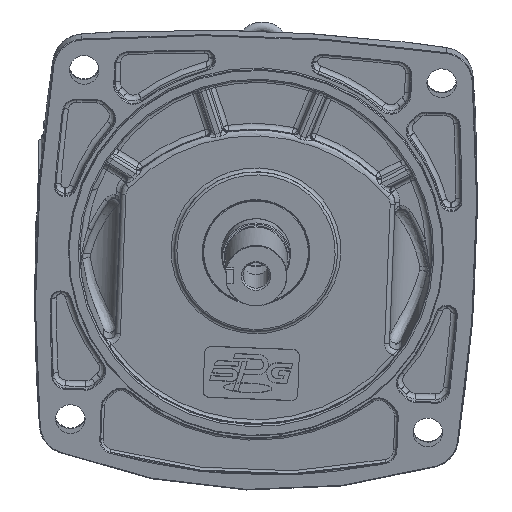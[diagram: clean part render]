
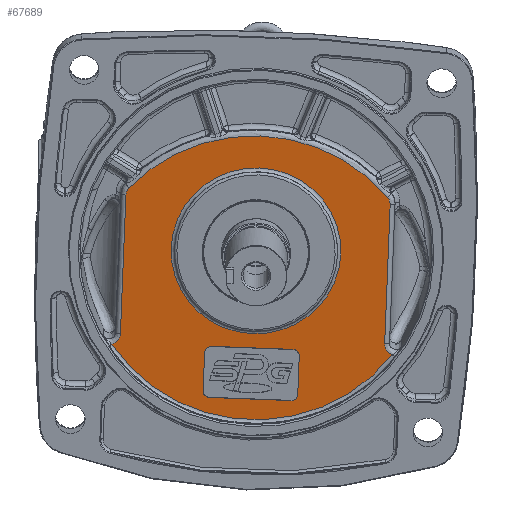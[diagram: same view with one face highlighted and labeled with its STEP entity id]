
A CAD part, top view. The second image highlights one B-rep face of the part: STEP entity #67689.
In plain terms, the highlighted planar face has unit normal (0, -0.216, 0.977).
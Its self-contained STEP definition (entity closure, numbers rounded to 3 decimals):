
#1079=FACE_BOUND('',#15610,.T.);
#1080=FACE_BOUND('',#15611,.T.);
#1730=PLANE('',#72993);
#3714=LINE('',#107303,#7022);
#3718=LINE('',#107315,#7026);
#3722=LINE('',#107327,#7030);
#3819=LINE('',#107603,#7127);
#4062=LINE('',#114378,#7370);
#4063=LINE('',#114393,#7371);
#7022=VECTOR('',#82674,10.);
#7026=VECTOR('',#82686,10.);
#7030=VECTOR('',#82698,10.);
#7127=VECTOR('',#82945,10.);
#7370=VECTOR('',#84276,10.);
#7371=VECTOR('',#84279,10.);
#11381=FACE_OUTER_BOUND('',#15609,.T.);
#15609=EDGE_LOOP('',(#48333,#48334,#48335,#48336,#48337,#48338,#48339,#48340));
#15610=EDGE_LOOP('',(#48341,#48342,#48343,#48344,#48345,#48346,#48347,#48348));
#15611=EDGE_LOOP('',(#48349));
#19464=CIRCLE('',#72365,4.);
#19466=CIRCLE('',#72369,4.);
#19468=CIRCLE('',#72373,4.);
#19470=CIRCLE('',#72377,4.);
#19797=CIRCLE('',#72989,105.999);
#19801=CIRCLE('',#72994,106.076);
#19802=CIRCLE('',#72995,52.);
#23081=B_SPLINE_CURVE_WITH_KNOTS('',3,(#114353,#114354,#114355,#114356,
#114357,#114358),.UNSPECIFIED.,.F.,.F.,(4,1,1,4),(0.901,1.027,
1.54,1.797),.UNSPECIFIED.);
#23083=B_SPLINE_CURVE_WITH_KNOTS('',3,(#114370,#114371,#114372,#114373,
#114374,#114375,#114376),.UNSPECIFIED.,.F.,.F.,(4,1,1,1,4),(0.,
0.257,0.513,0.77,0.896),
 .UNSPECIFIED.);
#23084=B_SPLINE_CURVE_WITH_KNOTS('',3,(#114380,#114381,#114382,#114383,
#114384),.UNSPECIFIED.,.F.,.F.,(4,1,4),(0.,0.217,0.507),
 .UNSPECIFIED.);
#23085=B_SPLINE_CURVE_WITH_KNOTS('',3,(#114388,#114389,#114390,#114391,
#114392),.UNSPECIFIED.,.F.,.F.,(4,1,4),(0.,0.29,0.507),
 .UNSPECIFIED.);
#26964=VERTEX_POINT('',#107293);
#26965=VERTEX_POINT('',#107295);
#26967=VERTEX_POINT('',#107301);
#26969=VERTEX_POINT('',#107307);
#26971=VERTEX_POINT('',#107313);
#26973=VERTEX_POINT('',#107319);
#26975=VERTEX_POINT('',#107325);
#26977=VERTEX_POINT('',#107331);
#27503=VERTEX_POINT('',#114147);
#27504=VERTEX_POINT('',#114149);
#27508=VERTEX_POINT('',#114352);
#27510=VERTEX_POINT('',#114369);
#27511=VERTEX_POINT('',#114377);
#27512=VERTEX_POINT('',#114379);
#27513=VERTEX_POINT('',#114385);
#27514=VERTEX_POINT('',#114387);
#27515=VERTEX_POINT('',#114394);
#33995=EDGE_CURVE('',#26964,#26965,#19464,.T.);
#33999=EDGE_CURVE('',#26964,#26967,#3714,.T.);
#34002=EDGE_CURVE('',#26969,#26967,#19466,.T.);
#34005=EDGE_CURVE('',#26969,#26971,#3718,.T.);
#34008=EDGE_CURVE('',#26973,#26971,#19468,.T.);
#34011=EDGE_CURVE('',#26973,#26975,#3722,.T.);
#34014=EDGE_CURVE('',#26977,#26975,#19470,.T.);
#34150=EDGE_CURVE('',#26977,#26965,#3819,.T.);
#34924=EDGE_CURVE('',#27503,#27504,#19797,.T.);
#34931=EDGE_CURVE('',#27504,#27508,#23081,.T.);
#34934=EDGE_CURVE('',#27510,#27503,#23083,.T.);
#34935=EDGE_CURVE('',#27511,#27510,#4062,.T.);
#34936=EDGE_CURVE('',#27512,#27511,#23084,.T.);
#34937=EDGE_CURVE('',#27513,#27512,#19801,.T.);
#34938=EDGE_CURVE('',#27514,#27513,#23085,.T.);
#34939=EDGE_CURVE('',#27508,#27514,#4063,.T.);
#34940=EDGE_CURVE('',#27515,#27515,#19802,.T.);
#48333=ORIENTED_EDGE('',*,*,#34924,.F.);
#48334=ORIENTED_EDGE('',*,*,#34934,.F.);
#48335=ORIENTED_EDGE('',*,*,#34935,.F.);
#48336=ORIENTED_EDGE('',*,*,#34936,.F.);
#48337=ORIENTED_EDGE('',*,*,#34937,.F.);
#48338=ORIENTED_EDGE('',*,*,#34938,.F.);
#48339=ORIENTED_EDGE('',*,*,#34939,.F.);
#48340=ORIENTED_EDGE('',*,*,#34931,.F.);
#48341=ORIENTED_EDGE('',*,*,#34011,.T.);
#48342=ORIENTED_EDGE('',*,*,#34014,.F.);
#48343=ORIENTED_EDGE('',*,*,#34150,.T.);
#48344=ORIENTED_EDGE('',*,*,#33995,.F.);
#48345=ORIENTED_EDGE('',*,*,#33999,.T.);
#48346=ORIENTED_EDGE('',*,*,#34002,.F.);
#48347=ORIENTED_EDGE('',*,*,#34005,.T.);
#48348=ORIENTED_EDGE('',*,*,#34008,.F.);
#48349=ORIENTED_EDGE('',*,*,#34940,.F.);
#67689=ADVANCED_FACE('',(#11381,#1079,#1080),#1730,.F.);
#72365=AXIS2_PLACEMENT_3D('',#107296,#82667,#82668);
#72369=AXIS2_PLACEMENT_3D('',#107309,#82680,#82681);
#72373=AXIS2_PLACEMENT_3D('',#107321,#82692,#82693);
#72377=AXIS2_PLACEMENT_3D('',#107333,#82704,#82705);
#72989=AXIS2_PLACEMENT_3D('',#114150,#84266,#84267);
#72993=AXIS2_PLACEMENT_3D('',#114368,#84274,#84275);
#72994=AXIS2_PLACEMENT_3D('',#114386,#84277,#84278);
#72995=AXIS2_PLACEMENT_3D('',#114395,#84280,#84281);
#82667=DIRECTION('center_axis',(0.,-0.216,
0.976));
#82668=DIRECTION('ref_axis',(0.734,0.663,0.147));
#82674=DIRECTION('',(-0.038,-0.976,-0.215));
#82680=DIRECTION('center_axis',(0.,-0.216,
0.976));
#82681=DIRECTION('ref_axis',(0.679,-0.716,-0.158));
#82686=DIRECTION('',(-0.999,0.037,0.008));
#82692=DIRECTION('center_axis',(0.,-0.216,
0.976));
#82693=DIRECTION('ref_axis',(-0.734,-0.663,-0.147));
#82698=DIRECTION('',(0.038,0.976,0.215));
#82704=DIRECTION('center_axis',(0.,-0.216,
0.976));
#82705=DIRECTION('ref_axis',(-0.679,0.716,0.158));
#82945=DIRECTION('',(0.999,-0.037,-0.008));
#84266=DIRECTION('center_axis',(0.,0.216,
-0.976));
#84267=DIRECTION('ref_axis',(-0.038,-0.976,-0.215));
#84274=DIRECTION('center_axis',(0.,0.216,
-0.976));
#84275=DIRECTION('ref_axis',(-0.999,0.037,0.008));
#84276=DIRECTION('',(-0.038,-0.976,-0.215));
#84277=DIRECTION('center_axis',(0.,0.216,
-0.976));
#84278=DIRECTION('ref_axis',(0.038,0.976,0.215));
#84279=DIRECTION('',(0.038,0.976,0.215));
#84280=DIRECTION('center_axis',(0.,-0.216,
0.976));
#84281=DIRECTION('ref_axis',(-0.999,0.037,0.008));
#107293=CARTESIAN_POINT('',(46.099,-26.418,85.689));
#107295=CARTESIAN_POINT('',(42.255,-22.365,86.584));
#107296=CARTESIAN_POINT('Origin',(42.102,-26.268,85.722));
#107301=CARTESIAN_POINT('',(45.178,-49.836,80.517));
#107303=CARTESIAN_POINT('',(46.156,-24.954,86.013));
#107307=CARTESIAN_POINT('',(41.027,-53.589,79.688));
#107309=CARTESIAN_POINT('Origin',(41.181,-49.686,80.55));
#107313=CARTESIAN_POINT('',(-8.936,-51.715,80.102));
#107315=CARTESIAN_POINT('',(1.556,-52.109,80.015));
#107319=CARTESIAN_POINT('',(-12.78,-47.662,80.997));
#107321=CARTESIAN_POINT('Origin',(-8.783,-47.812,80.964));
#107325=CARTESIAN_POINT('',(-11.859,-24.244,86.169));
#107327=CARTESIAN_POINT('',(-11.187,-7.169,89.941));
#107331=CARTESIAN_POINT('',(-7.708,-20.491,86.998));
#107333=CARTESIAN_POINT('Origin',(-7.861,-24.394,86.136));
#107603=CARTESIAN_POINT('',(31.763,-21.971,86.671));
#114147=CARTESIAN_POINT('',(103.209,-25.549,85.881));
#114149=CARTESIAN_POINT('',(-68.732,-19.101,87.305));
#114150=CARTESIAN_POINT('Origin',(19.615,38.093,99.937));
#114352=CARTESIAN_POINT('',(-63.444,-12.727,88.713));
#114353=CARTESIAN_POINT('Ctrl Pts',(-68.733,-19.1,
87.306));
#114354=CARTESIAN_POINT('Ctrl Pts',(-68.323,-19.001,
87.327));
#114355=CARTESIAN_POINT('Ctrl Pts',(-66.29,-18.316,
87.479));
#114356=CARTESIAN_POINT('Ctrl Pts',(-64.043,-16.075,87.974));
#114357=CARTESIAN_POINT('Ctrl Pts',(-63.477,-13.562,88.529));
#114358=CARTESIAN_POINT('Ctrl Pts',(-63.444,-12.727,
88.713));
#114368=CARTESIAN_POINT('Origin',(18.31,4.917,92.61));
#114369=CARTESIAN_POINT('',(98.437,-18.799,87.372));
#114370=CARTESIAN_POINT('Ctrl Pts',(98.437,-18.799,87.372));
#114371=CARTESIAN_POINT('Ctrl Pts',(98.404,-19.633,
87.188));
#114372=CARTESIAN_POINT('Ctrl Pts',(98.656,-21.333,
86.812));
#114373=CARTESIAN_POINT('Ctrl Pts',(99.948,-23.559,86.321));
#114374=CARTESIAN_POINT('Ctrl Pts',(101.628,-24.918,86.02));
#114375=CARTESIAN_POINT('Ctrl Pts',(102.809,-25.418,85.91));
#114376=CARTESIAN_POINT('Ctrl Pts',(103.21,-25.547,
85.882));
#114377=CARTESIAN_POINT('',(101.778,66.16,106.136));
#114378=CARTESIAN_POINT('',(97.408,-44.954,81.595));
#114379=CARTESIAN_POINT('',(100.185,70.773,107.154));
#114380=CARTESIAN_POINT('Ctrl Pts',(100.185,70.773,107.154));
#114381=CARTESIAN_POINT('Ctrl Pts',(100.646,70.227,107.034));
#114382=CARTESIAN_POINT('Ctrl Pts',(101.524,68.777,106.714));
#114383=CARTESIAN_POINT('Ctrl Pts',(101.815,67.102,106.344));
#114384=CARTESIAN_POINT('Ctrl Pts',(101.778,66.16,106.136));
#114385=CARTESIAN_POINT('',(-58.151,76.711,108.466));
#114386=CARTESIAN_POINT('Origin',(18.31,4.917,92.61));
#114387=CARTESIAN_POINT('',(-60.102,72.231,107.476));
#114388=CARTESIAN_POINT('Ctrl Pts',(-60.102,72.231,
107.476));
#114389=CARTESIAN_POINT('Ctrl Pts',(-60.065,73.173,
107.685));
#114390=CARTESIAN_POINT('Ctrl Pts',(-59.643,74.822,
108.049));
#114391=CARTESIAN_POINT('Ctrl Pts',(-58.653,76.202,
108.353));
#114392=CARTESIAN_POINT('Ctrl Pts',(-58.151,76.711,
108.466));
#114393=CARTESIAN_POINT('',(-64.473,-38.883,82.936));
#114394=CARTESIAN_POINT('',(71.576,36.144,99.506));
#114395=CARTESIAN_POINT('Origin',(19.615,38.093,99.937));
